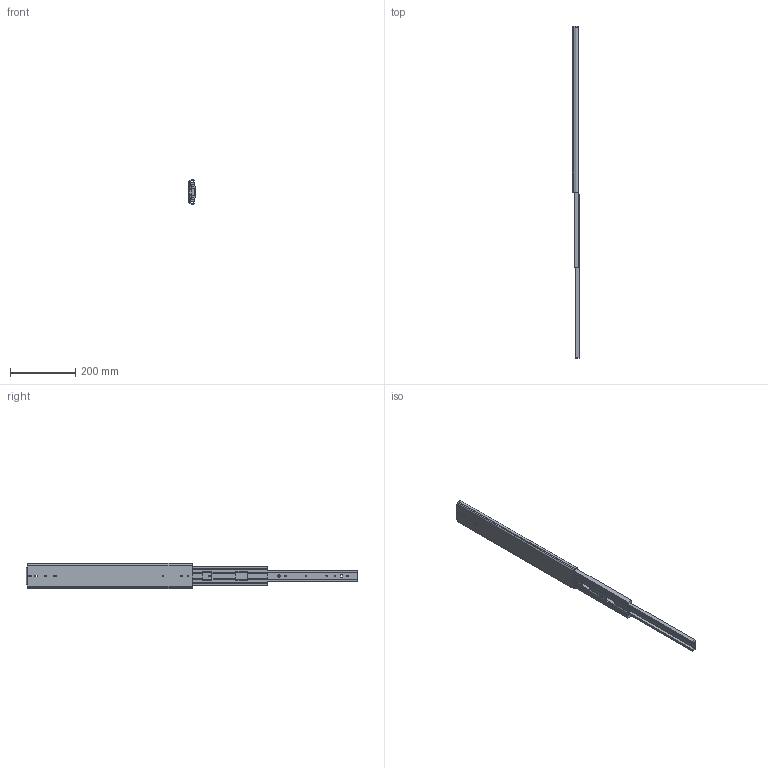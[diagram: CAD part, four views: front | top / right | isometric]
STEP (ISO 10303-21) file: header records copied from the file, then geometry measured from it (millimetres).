
FILE_DESCRIPTION(/* description */ ('Unknown'),/* implementation_level */ '2;1');
FILE_NAME(/* name */ '76J01-20 open',/* time_stamp */ '2024-07-26T15:38:12+08:00',/* author */ ('Unknown'),/* organization */ ('Unknown'),/* preprocessor_version */ 'ST-DEVELOPER v18.104',/* originating_system */ 'Solid Edge',/* authorisation */ 'Unknown');
FILE_SCHEMA (('AUTOMOTIVE_DESIGN {1 0 10303 214 3 1 1}'));
Length unit declared in the file: millimetre
Products named in the file (4): 76J01-20 open; 76J01 20 inch 內_0; 76J01 20 吋中_; 76J01 20 吋
Assembly tree (3 placements, depth 2):
  76J01-20 open
    76J01 20 inch 內_0
    76J01 20 吋中_
    76J01 20 吋
Bounding box: 19.3 x 1015.3 x 76.76 mm (x, y, z)
Volume: 394523.1 mm3; surface area: 246537.3 mm2
Topology: 3 solids, 3 shells, 188 faces, 575 edges, 387 vertices
Faces by surface type: plane 104, cylinder 84
Full cylindrical faces by diameter (mm): 5.2 x9, 7.1 x2
Entity records: 6871 total; most frequent: CARTESIAN_POINT 1124, ORIENTED_EDGE 1106, DIRECTION 1105, EDGE_CURVE 553, LINE 383, VECTOR 383, VERTEX_POINT 376, AXIS2_PLACEMENT_3D 361
